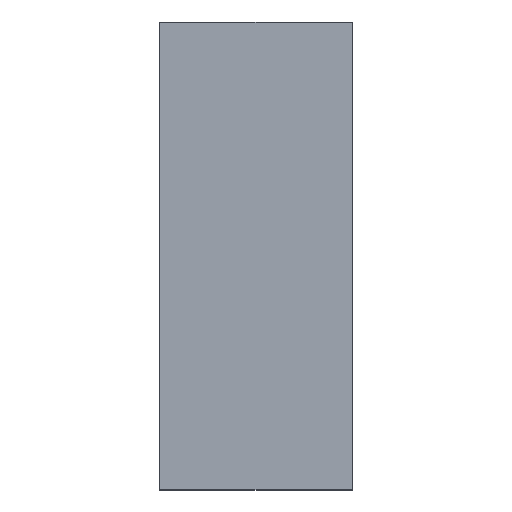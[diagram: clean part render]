
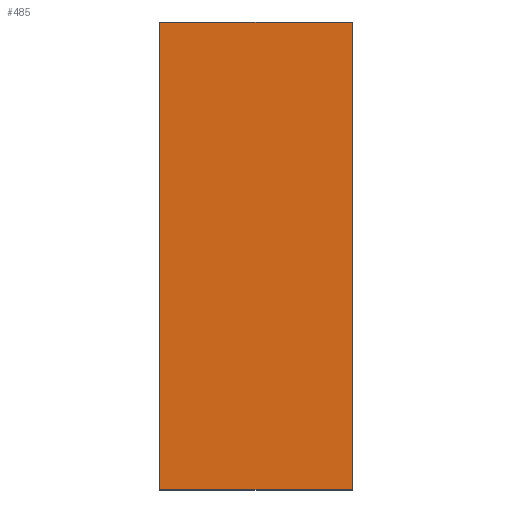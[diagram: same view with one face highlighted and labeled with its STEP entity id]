
A CAD part, top view. The second image highlights one B-rep face of the part: STEP entity #485.
In plain terms, the highlighted planar face has unit normal (0, 0, 1).
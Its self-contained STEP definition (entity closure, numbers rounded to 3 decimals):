
#171 = VERTEX_POINT('',#172);
#172 = CARTESIAN_POINT('',(-1.27,3.81,5.));
#179 = PLANE('',#180);
#180 = AXIS2_PLACEMENT_3D('',#181,#182,#183);
#181 = CARTESIAN_POINT('',(-1.27,3.81,0.));
#182 = DIRECTION('',(0.,1.,0.));
#183 = DIRECTION('',(1.,0.,0.));
#191 = PLANE('',#192);
#192 = AXIS2_PLACEMENT_3D('',#193,#194,#195);
#193 = CARTESIAN_POINT('',(-1.27,-39.37,0.));
#194 = DIRECTION('',(-1.,0.,0.));
#195 = DIRECTION('',(0.,1.,0.));
#203 = EDGE_CURVE('',#171,#204,#206,.T.);
#204 = VERTEX_POINT('',#205);
#205 = CARTESIAN_POINT('',(16.51,3.81,5.));
#206 = SURFACE_CURVE('',#207,(#211,#218),.PCURVE_S1.);
#207 = LINE('',#208,#209);
#208 = CARTESIAN_POINT('',(-1.27,3.81,5.));
#209 = VECTOR('',#210,1.);
#210 = DIRECTION('',(1.,0.,0.));
#211 = PCURVE('',#179,#212);
#212 = DEFINITIONAL_REPRESENTATION('',(#213),#217);
#213 = LINE('',#214,#215);
#214 = CARTESIAN_POINT('',(0.,-5.));
#215 = VECTOR('',#216,1.);
#216 = DIRECTION('',(1.,0.));
#217 = ( GEOMETRIC_REPRESENTATION_CONTEXT(2) 
PARAMETRIC_REPRESENTATION_CONTEXT() REPRESENTATION_CONTEXT('2D SPACE',''
  ) );
#218 = PCURVE('',#219,#224);
#219 = PLANE('',#220);
#220 = AXIS2_PLACEMENT_3D('',#221,#222,#223);
#221 = CARTESIAN_POINT('',(-1.27,3.81,5.));
#222 = DIRECTION('',(0.,0.,1.));
#223 = DIRECTION('',(1.,0.,0.));
#224 = DEFINITIONAL_REPRESENTATION('',(#225),#229);
#225 = LINE('',#226,#227);
#226 = CARTESIAN_POINT('',(0.,0.));
#227 = VECTOR('',#228,1.);
#228 = DIRECTION('',(1.,0.));
#229 = ( GEOMETRIC_REPRESENTATION_CONTEXT(2) 
PARAMETRIC_REPRESENTATION_CONTEXT() REPRESENTATION_CONTEXT('2D SPACE',''
  ) );
#247 = PLANE('',#248);
#248 = AXIS2_PLACEMENT_3D('',#249,#250,#251);
#249 = CARTESIAN_POINT('',(16.51,3.81,0.));
#250 = DIRECTION('',(1.,0.,-0.));
#251 = DIRECTION('',(0.,-1.,0.));
#289 = EDGE_CURVE('',#204,#290,#292,.T.);
#290 = VERTEX_POINT('',#291);
#291 = CARTESIAN_POINT('',(16.51,-39.37,5.));
#292 = SURFACE_CURVE('',#293,(#297,#304),.PCURVE_S1.);
#293 = LINE('',#294,#295);
#294 = CARTESIAN_POINT('',(16.51,3.81,5.));
#295 = VECTOR('',#296,1.);
#296 = DIRECTION('',(0.,-1.,0.));
#297 = PCURVE('',#247,#298);
#298 = DEFINITIONAL_REPRESENTATION('',(#299),#303);
#299 = LINE('',#300,#301);
#300 = CARTESIAN_POINT('',(0.,-5.));
#301 = VECTOR('',#302,1.);
#302 = DIRECTION('',(1.,0.));
#303 = ( GEOMETRIC_REPRESENTATION_CONTEXT(2) 
PARAMETRIC_REPRESENTATION_CONTEXT() REPRESENTATION_CONTEXT('2D SPACE',''
  ) );
#304 = PCURVE('',#219,#305);
#305 = DEFINITIONAL_REPRESENTATION('',(#306),#310);
#306 = LINE('',#307,#308);
#307 = CARTESIAN_POINT('',(17.78,0.));
#308 = VECTOR('',#309,1.);
#309 = DIRECTION('',(0.,-1.));
#310 = ( GEOMETRIC_REPRESENTATION_CONTEXT(2) 
PARAMETRIC_REPRESENTATION_CONTEXT() REPRESENTATION_CONTEXT('2D SPACE',''
  ) );
#328 = PLANE('',#329);
#329 = AXIS2_PLACEMENT_3D('',#330,#331,#332);
#330 = CARTESIAN_POINT('',(16.51,-39.37,0.));
#331 = DIRECTION('',(0.,-1.,0.));
#332 = DIRECTION('',(-1.,0.,0.));
#365 = EDGE_CURVE('',#290,#366,#368,.T.);
#366 = VERTEX_POINT('',#367);
#367 = CARTESIAN_POINT('',(-1.27,-39.37,5.));
#368 = SURFACE_CURVE('',#369,(#373,#380),.PCURVE_S1.);
#369 = LINE('',#370,#371);
#370 = CARTESIAN_POINT('',(16.51,-39.37,5.));
#371 = VECTOR('',#372,1.);
#372 = DIRECTION('',(-1.,0.,0.));
#373 = PCURVE('',#328,#374);
#374 = DEFINITIONAL_REPRESENTATION('',(#375),#379);
#375 = LINE('',#376,#377);
#376 = CARTESIAN_POINT('',(0.,-5.));
#377 = VECTOR('',#378,1.);
#378 = DIRECTION('',(1.,0.));
#379 = ( GEOMETRIC_REPRESENTATION_CONTEXT(2) 
PARAMETRIC_REPRESENTATION_CONTEXT() REPRESENTATION_CONTEXT('2D SPACE',''
  ) );
#380 = PCURVE('',#219,#381);
#381 = DEFINITIONAL_REPRESENTATION('',(#382),#386);
#382 = LINE('',#383,#384);
#383 = CARTESIAN_POINT('',(17.78,-43.18));
#384 = VECTOR('',#385,1.);
#385 = DIRECTION('',(-1.,0.));
#386 = ( GEOMETRIC_REPRESENTATION_CONTEXT(2) 
PARAMETRIC_REPRESENTATION_CONTEXT() REPRESENTATION_CONTEXT('2D SPACE',''
  ) );
#436 = EDGE_CURVE('',#366,#171,#437,.T.);
#437 = SURFACE_CURVE('',#438,(#442,#449),.PCURVE_S1.);
#438 = LINE('',#439,#440);
#439 = CARTESIAN_POINT('',(-1.27,-39.37,5.));
#440 = VECTOR('',#441,1.);
#441 = DIRECTION('',(0.,1.,0.));
#442 = PCURVE('',#191,#443);
#443 = DEFINITIONAL_REPRESENTATION('',(#444),#448);
#444 = LINE('',#445,#446);
#445 = CARTESIAN_POINT('',(0.,-5.));
#446 = VECTOR('',#447,1.);
#447 = DIRECTION('',(1.,0.));
#448 = ( GEOMETRIC_REPRESENTATION_CONTEXT(2) 
PARAMETRIC_REPRESENTATION_CONTEXT() REPRESENTATION_CONTEXT('2D SPACE',''
  ) );
#449 = PCURVE('',#219,#450);
#450 = DEFINITIONAL_REPRESENTATION('',(#451),#455);
#451 = LINE('',#452,#453);
#452 = CARTESIAN_POINT('',(0.,-43.18));
#453 = VECTOR('',#454,1.);
#454 = DIRECTION('',(0.,1.));
#455 = ( GEOMETRIC_REPRESENTATION_CONTEXT(2) 
PARAMETRIC_REPRESENTATION_CONTEXT() REPRESENTATION_CONTEXT('2D SPACE',''
  ) );
#485 = ADVANCED_FACE('',(#486),#219,.T.);
#486 = FACE_BOUND('',#487,.F.);
#487 = EDGE_LOOP('',(#488,#489,#490,#491));
#488 = ORIENTED_EDGE('',*,*,#203,.T.);
#489 = ORIENTED_EDGE('',*,*,#289,.T.);
#490 = ORIENTED_EDGE('',*,*,#365,.T.);
#491 = ORIENTED_EDGE('',*,*,#436,.T.);
